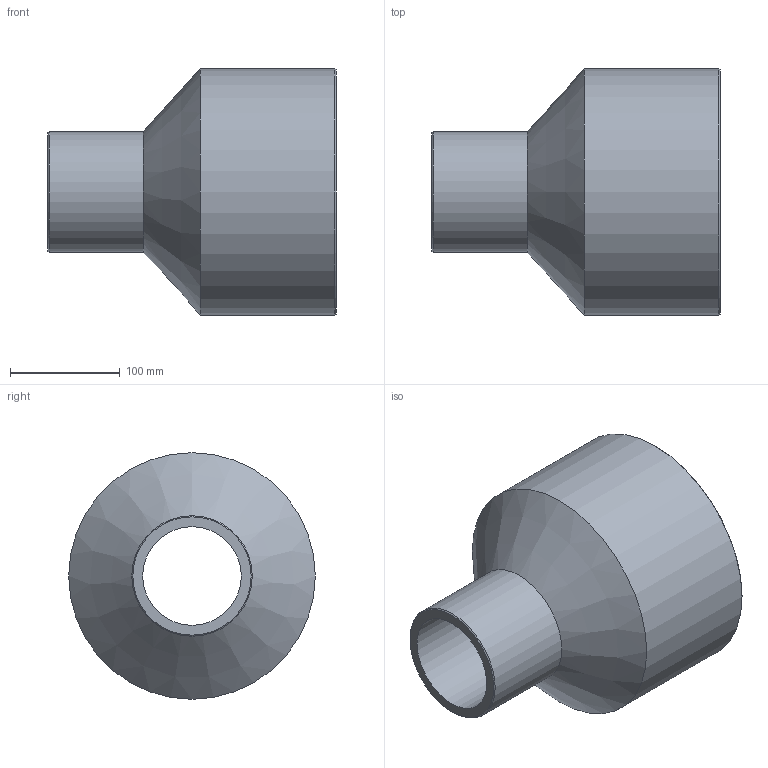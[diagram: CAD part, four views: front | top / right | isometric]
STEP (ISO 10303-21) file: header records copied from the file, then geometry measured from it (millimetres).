
FILE_DESCRIPTION(/* description */ ('Unknown'),/* implementation_level */ '2;1');
FILE_NAME(/* name */ 'RP225110C',/* time_stamp */ '2021-09-17T15:21:29+02:00',/* author */ ('Unknown'),/* organization */ ('Unknown'),/* preprocessor_version */ 'ST-DEVELOPER v16.7',/* originating_system */ 'Solid Edge',/* authorisation */ 'Unknown');
FILE_SCHEMA (('AUTOMOTIVE_DESIGN {1 0 10303 214 3 1 1}'));
Length unit declared in the file: millimetre
Products named in the file (1): RP225110C
Bounding box: 263 x 225 x 225 mm (x, y, z)
Volume: 2484523.8 mm3; surface area: 297774.2 mm2
Topology: 1 solids, 1 shells, 10 faces, 19 edges, 11 vertices
Faces by surface type: cylinder 4, cone 4, plane 2
Full cylindrical faces by diameter (mm): 90 x1, 110 x1, 184 x1, 225 x1
Entity records: 238 total; most frequent: DIRECTION 42, CARTESIAN_POINT 31, AXIS2_PLACEMENT_3D 21, ORIENTED_EDGE 20, EDGE_LOOP 20, FACE_BOUND 20, EDGE_CURVE 10, VERTEX_POINT 10
